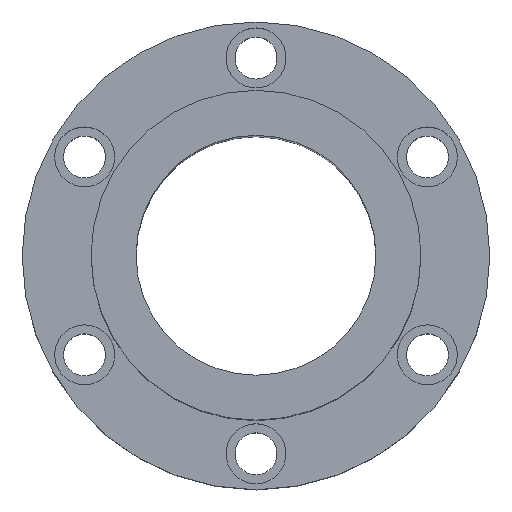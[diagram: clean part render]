
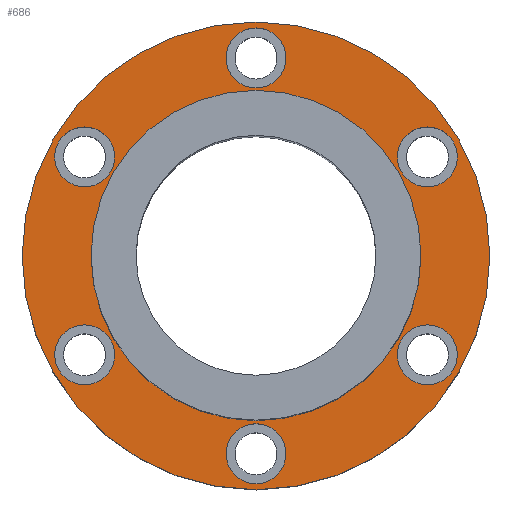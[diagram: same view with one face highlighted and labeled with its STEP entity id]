
A CAD part, top view. The second image highlights one B-rep face of the part: STEP entity #686.
In plain terms, the highlighted planar face has unit normal (0, 0, 1).
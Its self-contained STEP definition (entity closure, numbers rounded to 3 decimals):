
#1=CARTESIAN_POINT('',(0.,0.,26.));
#2=DIRECTION('',(0.,0.,1.));
#3=DIRECTION('',(1.,0.,0.));
#4=AXIS2_PLACEMENT_3D('',#1,#2,#3);
#6=CARTESIAN_POINT('',(0.,0.,26.));
#7=DIRECTION('',(0.,0.,1.));
#8=DIRECTION('',(-1.,0.,0.));
#9=AXIS2_PLACEMENT_3D('',#6,#7,#8);
#11=CARTESIAN_POINT('',(57.158,-33.,26.));
#12=DIRECTION('',(0.,0.,-1.));
#13=DIRECTION('',(-0.5,-0.866,0.));
#14=AXIS2_PLACEMENT_3D('',#11,#12,#13);
#16=CARTESIAN_POINT('',(57.158,-33.,26.));
#17=DIRECTION('',(0.,0.,-1.));
#18=DIRECTION('',(0.5,0.866,0.));
#19=AXIS2_PLACEMENT_3D('',#16,#17,#18);
#21=CARTESIAN_POINT('',(-57.158,-33.,26.));
#22=DIRECTION('',(0.,0.,-1.));
#23=DIRECTION('',(-0.5,0.866,0.));
#24=AXIS2_PLACEMENT_3D('',#21,#22,#23);
#26=CARTESIAN_POINT('',(-57.158,-33.,26.));
#27=DIRECTION('',(0.,0.,-1.));
#28=DIRECTION('',(0.5,-0.866,0.));
#29=AXIS2_PLACEMENT_3D('',#26,#27,#28);
#31=CARTESIAN_POINT('',(0.,66.,26.));
#32=DIRECTION('',(0.,0.,-1.));
#33=DIRECTION('',(1.,0.,0.));
#34=AXIS2_PLACEMENT_3D('',#31,#32,#33);
#36=CARTESIAN_POINT('',(0.,66.,26.));
#37=DIRECTION('',(0.,0.,-1.));
#38=DIRECTION('',(-1.,0.,0.));
#39=AXIS2_PLACEMENT_3D('',#36,#37,#38);
#41=CARTESIAN_POINT('',(0.,0.,26.));
#42=DIRECTION('',(0.,0.,-1.));
#43=DIRECTION('',(1.,0.,0.));
#44=AXIS2_PLACEMENT_3D('',#41,#42,#43);
#46=CARTESIAN_POINT('',(0.,0.,26.));
#47=DIRECTION('',(0.,0.,-1.));
#48=DIRECTION('',(-1.,0.,0.));
#49=AXIS2_PLACEMENT_3D('',#46,#47,#48);
#51=CARTESIAN_POINT('',(-57.158,33.,26.));
#52=DIRECTION('',(0.,0.,-1.));
#53=DIRECTION('',(0.5,0.866,0.));
#54=AXIS2_PLACEMENT_3D('',#51,#52,#53);
#56=CARTESIAN_POINT('',(-57.158,33.,26.));
#57=DIRECTION('',(0.,0.,-1.));
#58=DIRECTION('',(-0.5,-0.866,0.));
#59=AXIS2_PLACEMENT_3D('',#56,#57,#58);
#61=CARTESIAN_POINT('',(0.,-66.,26.));
#62=DIRECTION('',(0.,0.,-1.));
#63=DIRECTION('',(-1.,0.,0.));
#64=AXIS2_PLACEMENT_3D('',#61,#62,#63);
#66=CARTESIAN_POINT('',(0.,-66.,26.));
#67=DIRECTION('',(0.,0.,-1.));
#68=DIRECTION('',(1.,0.,0.));
#69=AXIS2_PLACEMENT_3D('',#66,#67,#68);
#71=CARTESIAN_POINT('',(57.158,33.,26.));
#72=DIRECTION('',(0.,0.,-1.));
#73=DIRECTION('',(0.5,-0.866,0.));
#74=AXIS2_PLACEMENT_3D('',#71,#72,#73);
#76=CARTESIAN_POINT('',(57.158,33.,26.));
#77=DIRECTION('',(0.,0.,-1.));
#78=DIRECTION('',(-0.5,0.866,0.));
#79=AXIS2_PLACEMENT_3D('',#76,#77,#78);
#561=CARTESIAN_POINT('',(-78.,0.,26.));
#563=VERTEX_POINT('',#561);
#565=CARTESIAN_POINT('',(78.,0.,26.));
#567=VERTEX_POINT('',#565);
#569=CARTESIAN_POINT('',(10.,66.,26.));
#571=VERTEX_POINT('',#569);
#573=CARTESIAN_POINT('',(-10.,66.,26.));
#575=VERTEX_POINT('',#573);
#577=CARTESIAN_POINT('',(-52.158,41.66,26.));
#579=VERTEX_POINT('',#577);
#581=CARTESIAN_POINT('',(-62.158,24.34,26.));
#583=VERTEX_POINT('',#581);
#585=CARTESIAN_POINT('',(-62.158,-24.34,26.));
#587=VERTEX_POINT('',#585);
#589=CARTESIAN_POINT('',(-52.158,-41.66,26.));
#591=VERTEX_POINT('',#589);
#593=CARTESIAN_POINT('',(-10.,-66.,26.));
#595=VERTEX_POINT('',#593);
#597=CARTESIAN_POINT('',(10.,-66.,26.));
#599=VERTEX_POINT('',#597);
#601=CARTESIAN_POINT('',(52.158,-41.66,26.));
#603=VERTEX_POINT('',#601);
#605=CARTESIAN_POINT('',(62.158,-24.34,26.));
#607=VERTEX_POINT('',#605);
#609=CARTESIAN_POINT('',(62.158,24.34,26.));
#611=VERTEX_POINT('',#609);
#613=CARTESIAN_POINT('',(52.158,41.66,26.));
#615=VERTEX_POINT('',#613);
#626=CARTESIAN_POINT('',(55.,0.,26.));
#628=VERTEX_POINT('',#626);
#630=CARTESIAN_POINT('',(-55.,0.,26.));
#632=VERTEX_POINT('',#630);
#633=CARTESIAN_POINT('',(0.,0.,26.));
#634=DIRECTION('',(0.,0.,1.));
#635=DIRECTION('',(1.,0.,0.));
#636=AXIS2_PLACEMENT_3D('',#633,#634,#635);
#637=PLANE('',#636);
#639=ORIENTED_EDGE('',*,*,#638,.F.);
#641=ORIENTED_EDGE('',*,*,#640,.F.);
#642=EDGE_LOOP('',(#639,#641));
#643=FACE_OUTER_BOUND('',#642,.F.);
#645=ORIENTED_EDGE('',*,*,#644,.F.);
#647=ORIENTED_EDGE('',*,*,#646,.F.);
#648=EDGE_LOOP('',(#645,#647));
#649=FACE_BOUND('',#648,.F.);
#651=ORIENTED_EDGE('',*,*,#650,.F.);
#653=ORIENTED_EDGE('',*,*,#652,.F.);
#654=EDGE_LOOP('',(#651,#653));
#655=FACE_BOUND('',#654,.F.);
#657=ORIENTED_EDGE('',*,*,#656,.F.);
#659=ORIENTED_EDGE('',*,*,#658,.F.);
#660=EDGE_LOOP('',(#657,#659));
#661=FACE_BOUND('',#660,.F.);
#663=ORIENTED_EDGE('',*,*,#662,.F.);
#665=ORIENTED_EDGE('',*,*,#664,.F.);
#666=EDGE_LOOP('',(#663,#665));
#667=FACE_BOUND('',#666,.F.);
#669=ORIENTED_EDGE('',*,*,#668,.F.);
#671=ORIENTED_EDGE('',*,*,#670,.F.);
#672=EDGE_LOOP('',(#669,#671));
#673=FACE_BOUND('',#672,.F.);
#675=ORIENTED_EDGE('',*,*,#674,.F.);
#677=ORIENTED_EDGE('',*,*,#676,.F.);
#678=EDGE_LOOP('',(#675,#677));
#679=FACE_BOUND('',#678,.F.);
#681=ORIENTED_EDGE('',*,*,#680,.F.);
#683=ORIENTED_EDGE('',*,*,#682,.F.);
#684=EDGE_LOOP('',(#681,#683));
#685=FACE_BOUND('',#684,.F.);
#686=ADVANCED_FACE('',(#643,#649,#655,#661,#667,#673,#679,#685),#637,.T.);
#5=CIRCLE('',#4,78.);
#10=CIRCLE('',#9,78.);
#15=CIRCLE('',#14,10.);
#20=CIRCLE('',#19,10.);
#25=CIRCLE('',#24,10.);
#30=CIRCLE('',#29,10.);
#35=CIRCLE('',#34,10.);
#40=CIRCLE('',#39,10.);
#45=CIRCLE('',#44,55.);
#50=CIRCLE('',#49,55.);
#55=CIRCLE('',#54,10.);
#60=CIRCLE('',#59,10.);
#65=CIRCLE('',#64,10.);
#70=CIRCLE('',#69,10.);
#75=CIRCLE('',#74,10.);
#80=CIRCLE('',#79,10.);
#638=EDGE_CURVE('',#567,#563,#5,.T.);
#640=EDGE_CURVE('',#563,#567,#10,.T.);
#644=EDGE_CURVE('',#603,#607,#15,.T.);
#646=EDGE_CURVE('',#607,#603,#20,.T.);
#650=EDGE_CURVE('',#587,#591,#25,.T.);
#652=EDGE_CURVE('',#591,#587,#30,.T.);
#656=EDGE_CURVE('',#571,#575,#35,.T.);
#658=EDGE_CURVE('',#575,#571,#40,.T.);
#662=EDGE_CURVE('',#628,#632,#45,.T.);
#664=EDGE_CURVE('',#632,#628,#50,.T.);
#668=EDGE_CURVE('',#579,#583,#55,.T.);
#670=EDGE_CURVE('',#583,#579,#60,.T.);
#674=EDGE_CURVE('',#595,#599,#65,.T.);
#676=EDGE_CURVE('',#599,#595,#70,.T.);
#680=EDGE_CURVE('',#611,#615,#75,.T.);
#682=EDGE_CURVE('',#615,#611,#80,.T.);
